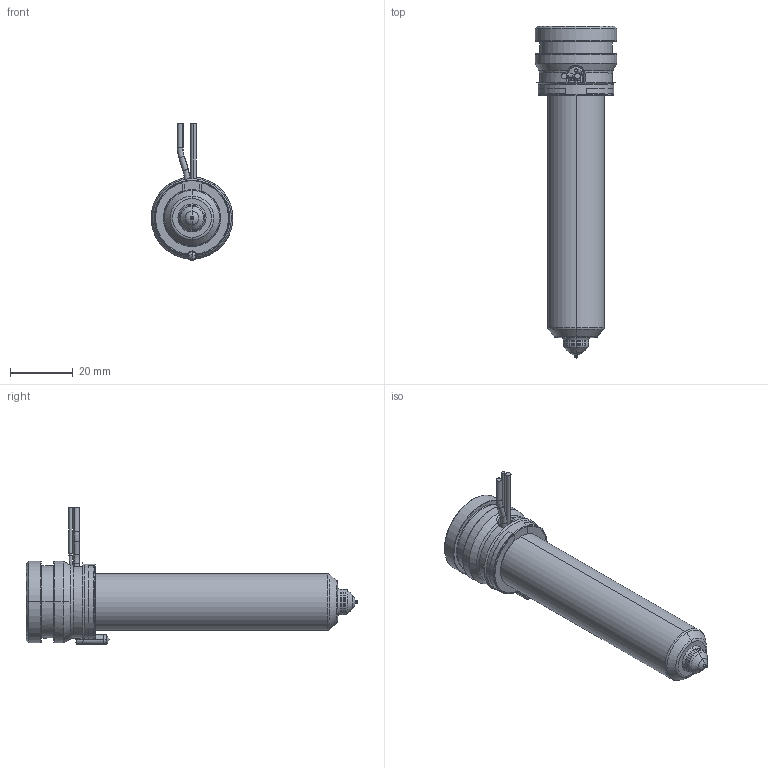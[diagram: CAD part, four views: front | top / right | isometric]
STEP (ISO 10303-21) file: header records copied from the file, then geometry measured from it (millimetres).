
FILE_DESCRIPTION((''),'2;1');
FILE_NAME('MPN-08-24-VX8-086-A','2026-02-05T11:59:45',('UPTIO'),('Thermoplay S.p.A.'),'CREO PARAMETRIC BY PTC INC, 2023494','CREO PARAMETRIC BY PTC INC, 2023494','');
FILE_SCHEMA(('CONFIG_CONTROL_DESIGN','SHAPE_APPEARANCE_LAYERS_GROUPS'));
Length unit declared in the file: millimetre
Products named in the file (1): MPN-08-24-VX8-086-A
Bounding box: 26 x 105.5 x 43.5 mm (x, y, z)
Volume: 20967.3 mm3; surface area: 26250 mm2
Topology: 2 solids, 3 shells, 545 faces, 1438 edges, 891 vertices
Faces by surface type: cylinder 180, plane 143, bspline 82, cone 62, torus 62, sphere 10, extrusion 6
Entity records: 29077 total; most frequent: CARTESIAN_POINT 12838, ORIENTED_EDGE 2860, DIRECTION 2578, EDGE_CURVE 1430, AXIS2_PLACEMENT_3D 1007, VERTEX_POINT 891, EDGE_LOOP 573, VECTOR 564
